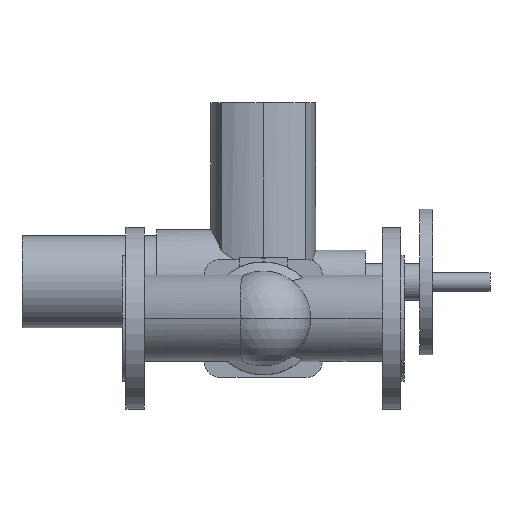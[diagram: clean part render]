
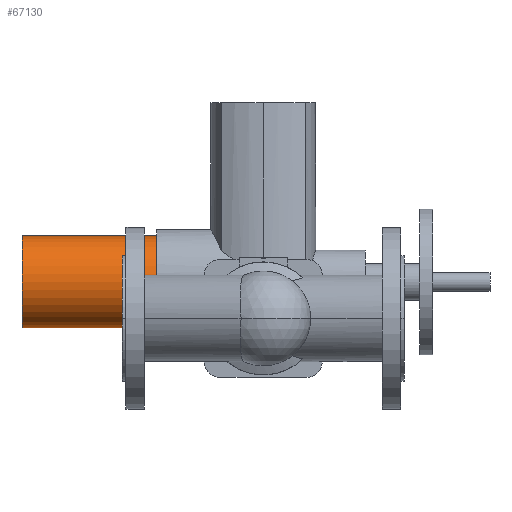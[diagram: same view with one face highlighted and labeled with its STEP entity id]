
A CAD part, front view. The second image highlights one B-rep face of the part: STEP entity #67130.
In plain terms, the highlighted cylindrical face has radius 50.5 mm (diameter 101 mm), a partial arc.
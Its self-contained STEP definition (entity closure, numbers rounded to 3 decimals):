
#66720=CARTESIAN_POINT('',(-36.,450.5,40.));
#66730=DIRECTION('',(1.,0.,0.));
#66740=DIRECTION('',(0.,0.,-1.));
#66750=AXIS2_PLACEMENT_3D('',#66720,#66730,#66740);
#66760=CYLINDRICAL_SURFACE('',#66750,50.5);
#66770=CARTESIAN_POINT('',(-36.,450.5,90.5));
#66780=DIRECTION('',(1.,0.,0.));
#66790=VECTOR('',#66780,1.);
#66800=LINE('',#66770,#66790);
#66810=CARTESIAN_POINT('',(-110.,450.5,90.5));
#66820=VERTEX_POINT('',#66810);
#66830=CARTESIAN_POINT('',(38.,450.5,90.5));
#66840=VERTEX_POINT('',#66830);
#66850=EDGE_CURVE('',#66820,#66840,#66800,.T.);
#66860=ORIENTED_EDGE('',*,*,#66850,.F.);
#66870=CARTESIAN_POINT('',(38.,450.5,40.));
#66880=DIRECTION('',(-1.,0.,0.));
#66890=DIRECTION('',(0.,0.,-1.));
#66900=AXIS2_PLACEMENT_3D('',#66870,#66880,#66890);
#66910=CIRCLE('',#66900,50.5);
#66920=CARTESIAN_POINT('',(38.,450.5,-10.5));
#66930=VERTEX_POINT('',#66920);
#66940=EDGE_CURVE('',#66930,#66840,#66910,.T.);
#66950=ORIENTED_EDGE('',*,*,#66940,.T.);
#66960=CARTESIAN_POINT('',(-36.,450.5,-10.5));
#66970=DIRECTION('',(1.,0.,0.));
#66980=VECTOR('',#66970,1.);
#66990=LINE('',#66960,#66980);
#67000=CARTESIAN_POINT('',(-110.,450.5,-10.5));
#67010=VERTEX_POINT('',#67000);
#67020=EDGE_CURVE('',#67010,#66930,#66990,.T.);
#67030=ORIENTED_EDGE('',*,*,#67020,.T.);
#67040=CARTESIAN_POINT('',(-110.,450.5,40.));
#67050=DIRECTION('',(-1.,0.,0.));
#67060=DIRECTION('',(0.,0.,-1.));
#67070=AXIS2_PLACEMENT_3D('',#67040,#67050,#67060);
#67080=CIRCLE('',#67070,50.5);
#67090=EDGE_CURVE('',#67010,#66820,#67080,.T.);
#67100=ORIENTED_EDGE('',*,*,#67090,.F.);
#67110=EDGE_LOOP('',(#67100,#67030,#66950,#66860));
#67120=FACE_OUTER_BOUND('',#67110,.T.);
#67130=ADVANCED_FACE('',(#67120),#66760,.T.);
